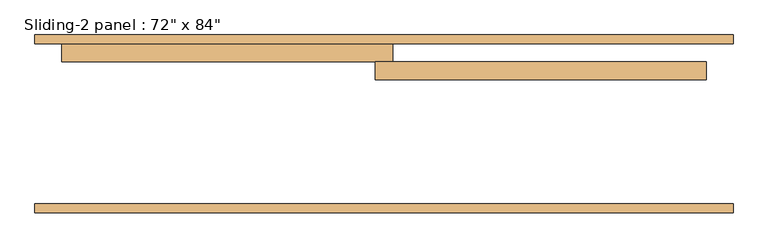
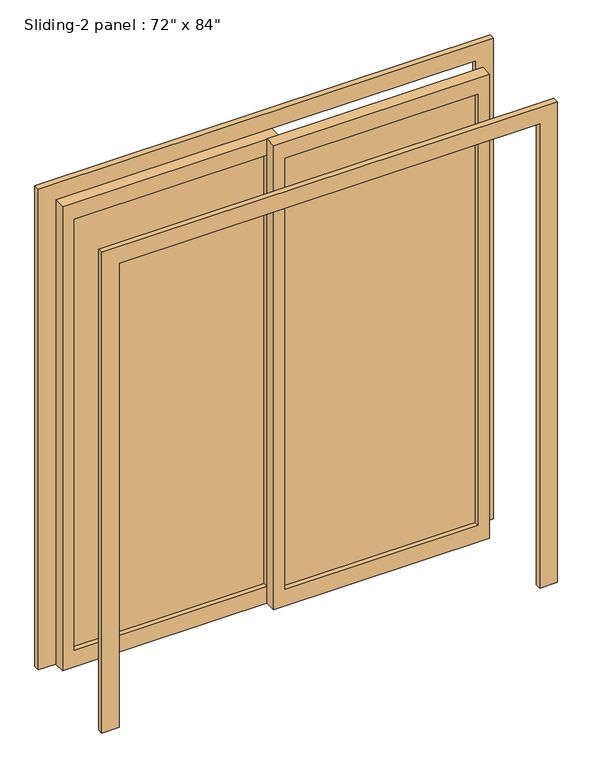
"""IFC4 building model written with IfcOpenShell, lengths in millimetres: door geometry."""

from ifc_helpers import new_model, si_unit, frame, origin, place, context, project, spatial, polyline, outline, extrude, source, transform, mapped, element, save


def door_77bef7fc(model_context):
    return source(origin(), model_context, "Body", "SweptSolid", [
        extrude(outline(polyline([(25.4, 280.9875), (863.6, 280.9875), (863.6, 274.6375), (25.4, 274.6375), (25.4, 280.9875)])), frame((0.0, 0.0, 76.2), z_axis=(0.0, 0.0, 1.0), x_axis=(1.0, 0.0, 0.0)), (0.0, 0.0, 1.0), 1981.2),
        extrude(outline(polyline([(2133.6, -25.4), (0.0, -25.4), (0.0, 914.4), (2133.6, 914.4), (2133.6, -25.4)]), holes=[polyline([(2057.4, 25.4), (2057.4, 863.6), (76.2, 863.6), (76.2, 25.4), (2057.4, 25.4)])]), frame((0.0, 252.4125, 0.0), z_axis=(0.0, 1.0, 0.0), x_axis=(0.0, 0.0, 1.0)), (0.0, 0.0, 1.0), 50.8),
        extrude(outline(polyline([(-863.6, 331.7875), (-25.4, 331.7875), (-25.4, 325.4375), (-863.6, 325.4375), (-863.6, 331.7875)])), frame((0.0, 0.0, 76.2), z_axis=(0.0, 0.0, 1.0), x_axis=(1.0, 0.0, 0.0)), (0.0, 0.0, 1.0), 1981.2),
        extrude(outline(polyline([(2133.6, 25.4), (2133.6, -914.4), (0.0, -914.4), (0.0, 25.4), (2133.6, 25.4)]), holes=[polyline([(2057.4, -25.4), (76.2, -25.4), (76.2, -863.6), (2057.4, -863.6), (2057.4, -25.4)])]), frame((0.0, 303.2125, 0.0), z_axis=(0.0, 1.0, 0.0), x_axis=(0.0, 0.0, 1.0)), (0.0, 0.0, 1.0), 50.8),
        extrude(outline(polyline([(0.0, -990.6), (0.0, -914.4), (2133.6, -914.4), (2133.6, 914.4), (0.0, 914.4), (0.0, 990.6), (2209.8, 990.6), (2209.8, -990.6), (0.0, -990.6)])), frame((0.0, -125.4125, 0.0), z_axis=(0.0, 1.0, 0.0), x_axis=(0.0, 0.0, 1.0)), (0.0, 0.0, 1.0), 25.4),
        extrude(outline(polyline([(0.0, 990.6), (2209.8, 990.6), (2209.8, -990.6), (0.0, -990.6), (0.0, -914.4), (2133.6, -914.4), (2133.6, 914.4), (0.0, 914.4), (0.0, 990.6)])), frame((0.0, 354.0125, 0.0), z_axis=(0.0, 1.0, 0.0), x_axis=(0.0, 0.0, 1.0)), (0.0, 0.0, 1.0), 25.4),
    ])


if __name__ == "__main__":
    model = new_model("IFC4")
    model_context = context("Model", 3, world=origin())
    ifc_project = project(units=[si_unit("LENGTHUNIT", "METRE", prefix="MILLI")], contexts=[model_context])
    site = spatial("IfcSite", under=ifc_project)
    building = spatial("IfcBuilding", under=site)
    placement = place(None, origin())
    door_shape = door_77bef7fc(model_context)
    element("IfcDoor", 1, ObjectType="Sliding-2 panel : 72\" x 84\"", at=placement, inside=building, context=model_context, shape_type="MappedRepresentation", body=[
        mapped(door_shape, transform((0.0, 0.0, 0.0), x_axis=(1.0, 0.0, 0.0), y_axis=(0.0, 1.0, 0.0), z_axis=(0.0, 0.0, 1.0))),
    ])
    save(model, "model.ifc")
